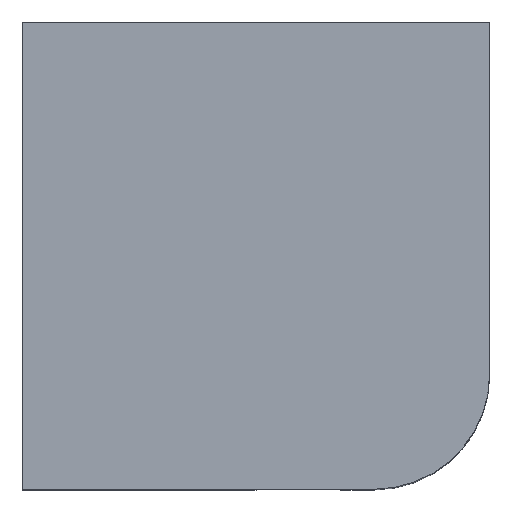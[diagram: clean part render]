
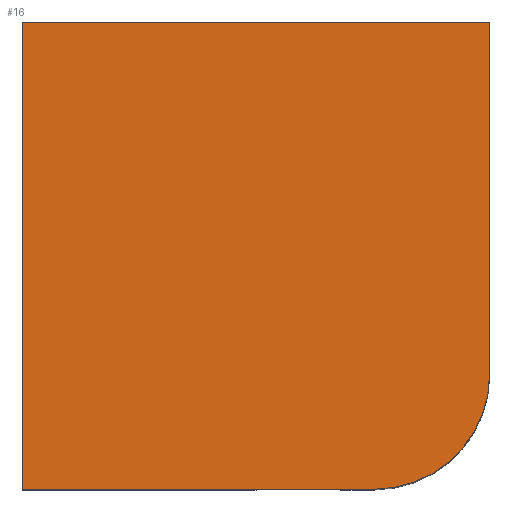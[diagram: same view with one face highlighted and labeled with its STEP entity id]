
A CAD part, top view. The second image highlights one B-rep face of the part: STEP entity #16.
In plain terms, the highlighted planar face has unit normal (0, 0, 1).
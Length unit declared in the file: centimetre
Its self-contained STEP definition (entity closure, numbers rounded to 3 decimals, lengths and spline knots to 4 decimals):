
#16 = ADVANCED_FACE ( 'NONE', ( #77 ), #591, .T. ) ;
#35 = CARTESIAN_POINT ( 'NONE',  ( 753.485, 246.515, 1000. ) ) ;
#51 = CARTESIAN_POINT ( 'NONE',  ( 1000., 246.515, 1000. ) ) ;
#77 = FACE_OUTER_BOUND ( 'NONE', #778, .T. ) ;
#100 = DIRECTION ( 'NONE',  ( 0., -1., 0. ) ) ;
#103 = CARTESIAN_POINT ( 'NONE',  ( 0., 0., 1000. ) ) ;
#144 = ORIENTED_EDGE ( 'NONE', *, *, #756, .T. ) ;
#177 = LINE ( 'NONE', #742, #201 ) ;
#188 = CARTESIAN_POINT ( 'NONE',  ( 1000., 1000., 1000. ) ) ;
#201 = VECTOR ( 'NONE', #100, 100. ) ;
#212 = CARTESIAN_POINT ( 'NONE',  ( 753.485, 0., 1000. ) ) ;
#281 = VECTOR ( 'NONE', #629, 100. ) ;
#354 = EDGE_CURVE ( 'NONE', #611, #437, #884, .T. ) ;
#361 = ORIENTED_EDGE ( 'NONE', *, *, #354, .T. ) ;
#437 = VERTEX_POINT ( 'NONE', #844 ) ;
#447 = DIRECTION ( 'NONE',  ( 1., 0., 0. ) ) ;
#468 = DIRECTION ( 'NONE',  ( 1., 0., 0. ) ) ;
#469 = DIRECTION ( 'NONE',  ( -1., 0., 0. ) ) ;
#484 = VECTOR ( 'NONE', #749, 100. ) ;
#490 = VERTEX_POINT ( 'NONE', #212 ) ;
#538 = CARTESIAN_POINT ( 'NONE',  ( 0., 1000., 1000. ) ) ;
#583 = EDGE_CURVE ( 'NONE', #597, #611, #619, .T. ) ;
#591 = PLANE ( 'NONE',  #656 ) ;
#597 = VERTEX_POINT ( 'NONE', #51 ) ;
#609 = CARTESIAN_POINT ( 'NONE',  ( 0., 0., 1000. ) ) ;
#611 = VERTEX_POINT ( 'NONE', #867 ) ;
#619 = LINE ( 'NONE', #188, #281 ) ;
#627 = VECTOR ( 'NONE', #469, 100. ) ;
#629 = DIRECTION ( 'NONE',  ( 0., 1., 0. ) ) ;
#637 = EDGE_CURVE ( 'NONE', #437, #736, #177, .T. ) ;
#653 = CARTESIAN_POINT ( 'NONE',  ( 0., 0., 1000. ) ) ;
#656 = AXIS2_PLACEMENT_3D ( 'NONE', #653, #659, #447 ) ;
#659 = DIRECTION ( 'NONE',  ( 0., 0., 1. ) ) ;
#715 = ORIENTED_EDGE ( 'NONE', *, *, #637, .T. ) ;
#717 = EDGE_CURVE ( 'NONE', #490, #597, #783, .T. ) ;
#736 = VERTEX_POINT ( 'NONE', #609 ) ;
#742 = CARTESIAN_POINT ( 'NONE',  ( 0., 1000., 1000. ) ) ;
#749 = DIRECTION ( 'NONE',  ( 1., 0., 0. ) ) ;
#756 = EDGE_CURVE ( 'NONE', #736, #490, #824, .T. ) ;
#778 = EDGE_LOOP ( 'NONE', ( #144, #865, #850, #361, #715 ) ) ;
#783 = CIRCLE ( 'NONE', #802, 246.515 ) ;
#802 = AXIS2_PLACEMENT_3D ( 'NONE', #35, #893, #468 ) ;
#824 = LINE ( 'NONE', #103, #484 ) ;
#844 = CARTESIAN_POINT ( 'NONE',  ( 0., 1000., 1000. ) ) ;
#850 = ORIENTED_EDGE ( 'NONE', *, *, #583, .T. ) ;
#865 = ORIENTED_EDGE ( 'NONE', *, *, #717, .T. ) ;
#867 = CARTESIAN_POINT ( 'NONE',  ( 1000., 1000., 1000. ) ) ;
#884 = LINE ( 'NONE', #538, #627 ) ;
#893 = DIRECTION ( 'NONE',  ( 0., 0., 1. ) ) ;
